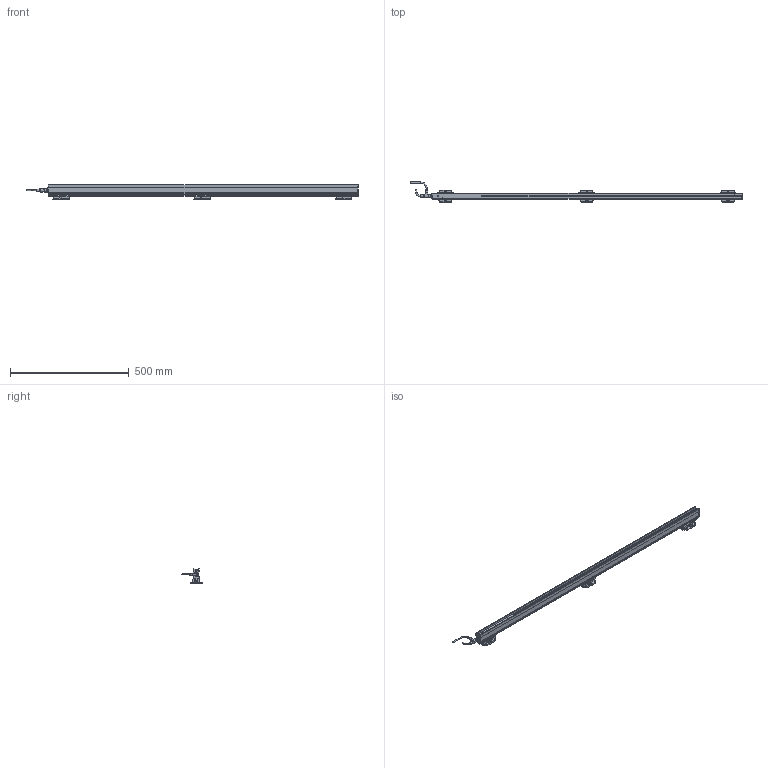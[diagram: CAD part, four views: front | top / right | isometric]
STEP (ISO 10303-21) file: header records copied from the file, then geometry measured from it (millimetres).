
FILE_DESCRIPTION(('Bauteilbeschreibung','HiCAD-Model','HiCAD-STEP-TRANSLATION','Bauteilbeschreibung'),'2;1');
FILE_NAME('PERFORMAXIQEASY_1230-1320_3D.STP','2014-03-05T11:41:00+00:00',('Konstrukteur'),('Konstrukteur Firma GmbH'),' HiCAD 2011, Step 1600.0 ','HiCAD 2011','confidential');
FILE_SCHEMA(('AUTOMOTIVE_DESIGN { 1 2 10303 214 0 1 1 1 }'));
Products named in the file (43): PERFORMAXIQEASY_1230_1320_3D; A_PERFORMAX IQ EASY 1230_1320; A_PERFORMAX IQ EASY SPEED; A_CAP DE; A_CAP CE_5; GROUP; PIN; GROUP0; PIN0; LED_2C_3MM; LED02C03MM; A519020315_CONNECTOR APPLIANCE; A_INSERT; A_CONTACTS; A_HOUSING; A_PROFILE; A_POTTING; A532000100_BRACKET BARS_ MOUNT; A_SIDE PIECE; A0SIDE0PIECE; A_BRACKET SMALL; A_SLIDE PIECE; A5320001000BRACKET0BARS00MOUNT; A0SIDE0PIECE0; A0SIDE0PIECE1; A0BRACKET0SMALL; A0SLIDE0PIECE; A5320001000BRACKET0BARS00MOUNT0; A0SIDE0PIECE2; A0SIDE0PIECE3; A0BRACKET0SMALL0; A0SLIDE0PIECE0; A_CONNECTOR STRAIGHT; EXTRUDED SOLID_0; DRAAD GEBOGEN; REVOLVED SOLID_1; REVOLVED SOLID_3; A_CONNECTOR ANGLED; REVOLVED0SOLID01; EXTRUDED0SOLID00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
Assembly tree (42 placements, depth 5):
  PERFORMAXIQEASY_1230_1320_3D
    A_PERFORMAX IQ EASY 1230_1320
      A_PERFORMAX IQ EASY SPEED
        A_CAP DE
        A_CAP CE_5
        GROUP
          PIN
        GROUP0
          PIN0
        LED_2C_3MM
        LED02C03MM
        A519020315_CONNECTOR APPLIANCE
          A_INSERT
          A_CONTACTS
          A_HOUSING
        A_PROFILE
        A_POTTING
      A532000100_BRACKET BARS_ MOUNT
        A_SIDE PIECE
        A0SIDE0PIECE
        A_BRACKET SMALL
        A_SLIDE PIECE
      A5320001000BRACKET0BARS00MOUNT
        A0SIDE0PIECE0
        A0SIDE0PIECE1
        A0BRACKET0SMALL
        A0SLIDE0PIECE
      A5320001000BRACKET0BARS00MOUNT0
        A0SIDE0PIECE2
        A0SIDE0PIECE3
        A0BRACKET0SMALL0
        A0SLIDE0PIECE0
      A_CONNECTOR STRAIGHT
        EXTRUDED SOLID_0
        DRAAD GEBOGEN
        REVOLVED SOLID_1
        REVOLVED SOLID_3
      A_CONNECTOR ANGLED
        REVOLVED0SOLID01
        EXTRUDED0SOLID00
        C_EDGE SWEEP_0
        REVOLVED SOLID_2
        REVOLVED0SOLID03
Bounding box: 1397.89 x 84.28 x 63.13 mm (x, y, z)
Volume: 1384747.1 mm3; surface area: 359822.6 mm2
Topology: 37 solids, 37 shells, 2679 faces, 6859 edges, 4095 vertices
Faces by surface type: cylinder 1117, plane 1033, sphere 167, torus 158, bspline 128, cone 76
Full cylindrical faces by diameter (mm): 0.8 x10, 1 x5, 2.387 x6, 3 x15, 3.1 x1, 4.2 x2, 5 x4, 5.5 x15, 8 x2, 8.2 x1, 8.4 x2, 8.945 x1, 9 x2, 10.2 x1, 10.5 x3, 11 x1, 12 x3, 12.8 x1, 13.8 x4, 14.5 x3
Entity records: 123325 total; most frequent: CARTESIAN_POINT 28458, DIRECTION 13337, ORIENTED_EDGE 12962, EDGE_CURVE 6481, COLOUR_RGB 6168, PRESENTATION_STYLE_ASSIGNMENT 6168, OVER_RIDING_STYLED_ITEM 6136, CURVE_STYLE 6131
